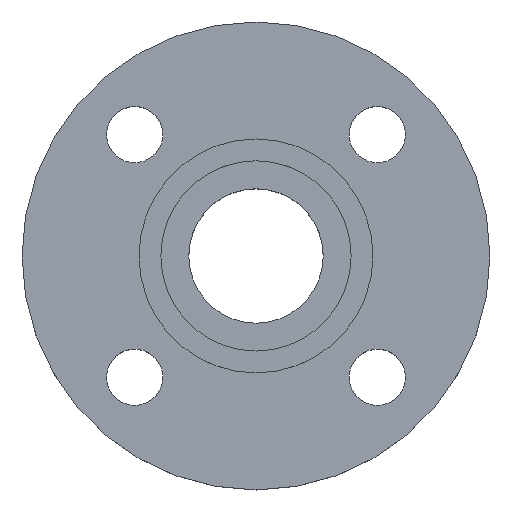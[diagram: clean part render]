
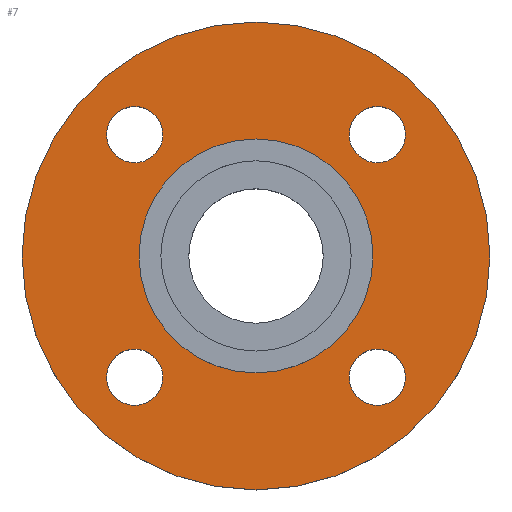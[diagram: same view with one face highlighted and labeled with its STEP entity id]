
A CAD part, top view. The second image highlights one B-rep face of the part: STEP entity #7.
In plain terms, the highlighted planar face has unit normal (0, 0, 1).
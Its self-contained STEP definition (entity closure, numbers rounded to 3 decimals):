
#2 = CIRCLE ( 'NONE', #3, 9. ) ;
#3 = AXIS2_PLACEMENT_3D ( 'NONE', #382, #384, #387 ) ;
#7 = ADVANCED_FACE ( 'NONE', ( #870, #871, #873, #874, #875, #876 ), #877, .T. ) ;
#17 = CIRCLE ( 'NONE', #18, 9. ) ;
#18 = AXIS2_PLACEMENT_3D ( 'NONE', #413, #284, #342 ) ;
#26 = EDGE_CURVE ( 'NONE', #735, #793, #60, .T. ) ;
#31 = AXIS2_PLACEMENT_3D ( 'NONE', #546, #547, #550 ) ;
#42 = CIRCLE ( 'NONE', #410, 37.5 ) ;
#48 = CIRCLE ( 'NONE', #58, 75. ) ;
#58 = AXIS2_PLACEMENT_3D ( 'NONE', #193, #192, #189 ) ;
#60 = CIRCLE ( 'NONE', #254, 9. ) ;
#65 = CIRCLE ( 'NONE', #97, 9. ) ;
#66 = DIRECTION ( 'NONE',  ( -1., 0., 0. ) ) ;
#68 = DIRECTION ( 'NONE',  ( 0., 0., -1. ) ) ;
#69 = CARTESIAN_POINT ( 'NONE',  ( 0., 0., -4.5 ) ) ;
#83 = CARTESIAN_POINT ( 'NONE',  ( -37.5, 0., -4.5 ) ) ;
#84 = CARTESIAN_POINT ( 'NONE',  ( -29.891, -38.891, -4.5 ) ) ;
#85 = CARTESIAN_POINT ( 'NONE',  ( 37.5, 0., -4.5 ) ) ;
#97 = AXIS2_PLACEMENT_3D ( 'NONE', #528, #530, #532 ) ;
#109 = CIRCLE ( 'NONE', #31, 9. ) ;
#111 = CARTESIAN_POINT ( 'NONE',  ( 47.891, -38.891, -4.5 ) ) ;
#140 = CIRCLE ( 'NONE', #155, 37.5 ) ;
#155 = AXIS2_PLACEMENT_3D ( 'NONE', #69, #68, #66 ) ;
#169 = CARTESIAN_POINT ( 'NONE',  ( 29.891, -38.891, -4.5 ) ) ;
#172 = CARTESIAN_POINT ( 'NONE',  ( -75., 0., -4.5 ) ) ;
#182 = CARTESIAN_POINT ( 'NONE',  ( -29.891, 38.891, -4.5 ) ) ;
#184 = EDGE_CURVE ( 'NONE', #707, #636, #272, .T. ) ;
#189 = DIRECTION ( 'NONE',  ( -1., 0., 0. ) ) ;
#192 = DIRECTION ( 'NONE',  ( 0., 0., -1. ) ) ;
#193 = CARTESIAN_POINT ( 'NONE',  ( 0., 0., -4.5 ) ) ;
#203 = EDGE_CURVE ( 'NONE', #619, #722, #360, .T. ) ;
#228 = EDGE_CURVE ( 'NONE', #637, #645, #2, .T. ) ;
#247 = CARTESIAN_POINT ( 'NONE',  ( -47.891, -38.891, -4.5 ) ) ;
#248 = CARTESIAN_POINT ( 'NONE',  ( 29.891, 38.891, -4.5 ) ) ;
#254 = AXIS2_PLACEMENT_3D ( 'NONE', #898, #577, #805 ) ;
#256 = CARTESIAN_POINT ( 'NONE',  ( -47.891, 38.891, -4.5 ) ) ;
#263 = DIRECTION ( 'NONE',  ( 1., 0., 0. ) ) ;
#265 = DIRECTION ( 'NONE',  ( 0., 0., -1. ) ) ;
#269 = CIRCLE ( 'NONE', #276, 9. ) ;
#272 = CIRCLE ( 'NONE', #403, 9. ) ;
#276 = AXIS2_PLACEMENT_3D ( 'NONE', #449, #265, #263 ) ;
#284 = DIRECTION ( 'NONE',  ( 0., 0., -1. ) ) ;
#291 = CARTESIAN_POINT ( 'NONE',  ( -38.891, 38.891, -4.5 ) ) ;
#294 = DIRECTION ( 'NONE',  ( 1., 0., 0. ) ) ;
#305 = AXIS2_PLACEMENT_3D ( 'NONE', #291, #321, #294 ) ;
#306 = EDGE_CURVE ( 'NONE', #647, #848, #65, .T. ) ;
#321 = DIRECTION ( 'NONE',  ( 0., 0., -1. ) ) ;
#322 = EDGE_CURVE ( 'NONE', #645, #637, #109, .T. ) ;
#324 = CIRCLE ( 'NONE', #305, 9. ) ;
#342 = DIRECTION ( 'NONE',  ( 1., 0., 0. ) ) ;
#348 = CARTESIAN_POINT ( 'NONE',  ( -38.891, 38.891, -4.5 ) ) ;
#349 = DIRECTION ( 'NONE',  ( 0., 0., -1. ) ) ;
#350 = DIRECTION ( 'NONE',  ( 1., 0., 0. ) ) ;
#360 = CIRCLE ( 'NONE', #889, 75. ) ;
#361 = CARTESIAN_POINT ( 'NONE',  ( 0., 0., -4.5 ) ) ;
#362 = DIRECTION ( 'NONE',  ( 0., 0., -1. ) ) ;
#363 = DIRECTION ( 'NONE',  ( -1., 0., 0. ) ) ;
#373 = EDGE_CURVE ( 'NONE', #845, #849, #42, .T. ) ;
#382 = CARTESIAN_POINT ( 'NONE',  ( 38.891, 38.891, -4.5 ) ) ;
#384 = DIRECTION ( 'NONE',  ( 0., 0., -1. ) ) ;
#387 = DIRECTION ( 'NONE',  ( 1., 0., 0. ) ) ;
#403 = AXIS2_PLACEMENT_3D ( 'NONE', #348, #349, #350 ) ;
#410 = AXIS2_PLACEMENT_3D ( 'NONE', #481, #491, #508 ) ;
#413 = CARTESIAN_POINT ( 'NONE',  ( 38.891, -38.891, -4.5 ) ) ;
#438 = CARTESIAN_POINT ( 'NONE',  ( 75., 0., -4.5 ) ) ;
#449 = CARTESIAN_POINT ( 'NONE',  ( -38.891, -38.891, -4.5 ) ) ;
#476 = CARTESIAN_POINT ( 'NONE',  ( 47.891, 38.891, -4.5 ) ) ;
#481 = CARTESIAN_POINT ( 'NONE',  ( 0., 0., -4.5 ) ) ;
#491 = DIRECTION ( 'NONE',  ( 0., 0., -1. ) ) ;
#508 = DIRECTION ( 'NONE',  ( -1., 0., 0. ) ) ;
#528 = CARTESIAN_POINT ( 'NONE',  ( -38.891, -38.891, -4.5 ) ) ;
#530 = DIRECTION ( 'NONE',  ( 0., 0., -1. ) ) ;
#532 = DIRECTION ( 'NONE',  ( 1., 0., 0. ) ) ;
#546 = CARTESIAN_POINT ( 'NONE',  ( 38.891, 38.891, -4.5 ) ) ;
#547 = DIRECTION ( 'NONE',  ( 0., 0., -1. ) ) ;
#550 = DIRECTION ( 'NONE',  ( 1., 0., 0. ) ) ;
#577 = DIRECTION ( 'NONE',  ( 0., 0., -1. ) ) ;
#594 = EDGE_CURVE ( 'NONE', #793, #735, #17, .T. ) ;
#599 = EDGE_CURVE ( 'NONE', #636, #707, #324, .T. ) ;
#606 = ORIENTED_EDGE ( 'NONE', *, *, #677, .F. ) ;
#619 = VERTEX_POINT ( 'NONE', #438 ) ;
#624 = EDGE_LOOP ( 'NONE', ( #766, #606 ) ) ;
#630 = EDGE_CURVE ( 'NONE', #848, #647, #269, .T. ) ;
#636 = VERTEX_POINT ( 'NONE', #256 ) ;
#637 = VERTEX_POINT ( 'NONE', #476 ) ;
#638 = EDGE_LOOP ( 'NONE', ( #756, #757 ) ) ;
#645 = VERTEX_POINT ( 'NONE', #248 ) ;
#646 = EDGE_LOOP ( 'NONE', ( #749, #751 ) ) ;
#647 = VERTEX_POINT ( 'NONE', #247 ) ;
#649 = EDGE_LOOP ( 'NONE', ( #752, #754 ) ) ;
#660 = AXIS2_PLACEMENT_3D ( 'NONE', #878, #879, #880 ) ;
#677 = EDGE_CURVE ( 'NONE', #722, #619, #48, .T. ) ;
#707 = VERTEX_POINT ( 'NONE', #182 ) ;
#722 = VERTEX_POINT ( 'NONE', #172 ) ;
#735 = VERTEX_POINT ( 'NONE', #169 ) ;
#743 = ORIENTED_EDGE ( 'NONE', *, *, #594, .T. ) ;
#746 = ORIENTED_EDGE ( 'NONE', *, *, #26, .T. ) ;
#749 = ORIENTED_EDGE ( 'NONE', *, *, #630, .T. ) ;
#751 = ORIENTED_EDGE ( 'NONE', *, *, #306, .T. ) ;
#752 = ORIENTED_EDGE ( 'NONE', *, *, #184, .T. ) ;
#754 = ORIENTED_EDGE ( 'NONE', *, *, #599, .T. ) ;
#756 = ORIENTED_EDGE ( 'NONE', *, *, #228, .T. ) ;
#757 = ORIENTED_EDGE ( 'NONE', *, *, #322, .T. ) ;
#763 = ORIENTED_EDGE ( 'NONE', *, *, #872, .T. ) ;
#764 = ORIENTED_EDGE ( 'NONE', *, *, #373, .T. ) ;
#766 = ORIENTED_EDGE ( 'NONE', *, *, #203, .F. ) ;
#793 = VERTEX_POINT ( 'NONE', #111 ) ;
#797 = EDGE_LOOP ( 'NONE', ( #763, #764 ) ) ;
#805 = DIRECTION ( 'NONE',  ( 1., 0., 0. ) ) ;
#845 = VERTEX_POINT ( 'NONE', #85 ) ;
#848 = VERTEX_POINT ( 'NONE', #84 ) ;
#849 = VERTEX_POINT ( 'NONE', #83 ) ;
#855 = EDGE_LOOP ( 'NONE', ( #743, #746 ) ) ;
#870 = FACE_BOUND ( 'NONE', #855, .T. ) ;
#871 = FACE_BOUND ( 'NONE', #646, .T. ) ;
#872 = EDGE_CURVE ( 'NONE', #849, #845, #140, .T. ) ;
#873 = FACE_BOUND ( 'NONE', #649, .T. ) ;
#874 = FACE_BOUND ( 'NONE', #638, .T. ) ;
#875 = FACE_BOUND ( 'NONE', #797, .T. ) ;
#876 = FACE_OUTER_BOUND ( 'NONE', #624, .T. ) ;
#877 = PLANE ( 'NONE',  #660 ) ;
#878 = CARTESIAN_POINT ( 'NONE',  ( 37.5, 0., -4.5 ) ) ;
#879 = DIRECTION ( 'NONE',  ( 0., 0., 1. ) ) ;
#880 = DIRECTION ( 'NONE',  ( 1., 0., 0. ) ) ;
#889 = AXIS2_PLACEMENT_3D ( 'NONE', #361, #362, #363 ) ;
#898 = CARTESIAN_POINT ( 'NONE',  ( 38.891, -38.891, -4.5 ) ) ;
